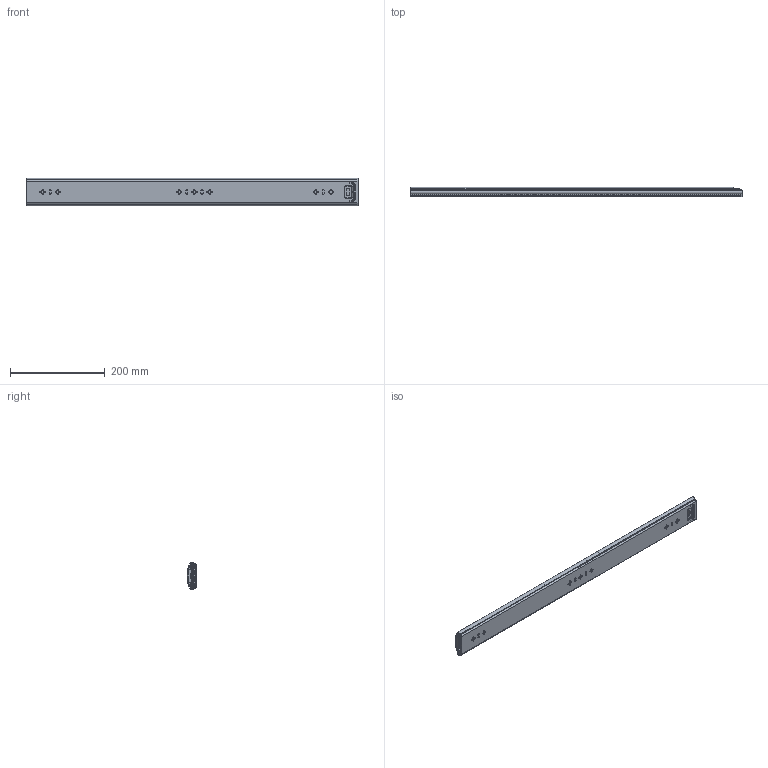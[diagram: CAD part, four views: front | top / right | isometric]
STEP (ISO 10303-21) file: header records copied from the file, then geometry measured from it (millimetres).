
FILE_DESCRIPTION((''),'2;1');
FILE_NAME('1057-02-28_ASM','2023-12-23T',('jishu015'),(''),'PRO/ENGINEER BY PARAMETRIC TECHNOLOGY CORPORATION, 2010280','PRO/ENGINEER BY PARAMETRIC TECHNOLOGY CORPORATION, 2010280','');
FILE_SCHEMA(('CONFIG_CONTROL_DESIGN'));
Products named in the file (14): KP-57-01WEIKE-18______; 1057WEIJIAO______; 1057DAZHUJIA-14GE______; 1057-5-6GANZHU______; 1057DAZHUJIA-14GE_______ASM; KP-57-01ZHONGGUI-18______; 57-ZHONGGUIDINWEIJIAN______; KP-57-01ZHONGGUI-18_______ASM; 1057XIAOZHUJIA______; 1057XIAOZHUJIA-14GE_______ASM; KP-57-01NEIGUI-18______; 45TIEBACHA______; KP-57-01NEIGUI-18_______ASM; 1057-02-28_ASM
Assembly tree (112 placements, depth 3):
  1057-02-28_ASM
    KP-57-01WEIKE-18______
    1057WEIJIAO______
    1057DAZHUJIA-14GE_______ASM
      1057DAZHUJIA-14GE______
      1057-5-6GANZHU______  x48
    KP-57-01ZHONGGUI-18_______ASM
      KP-57-01ZHONGGUI-18______
      57-ZHONGGUIDINWEIJIAN______
    1057XIAOZHUJIA-14GE_______ASM
      1057XIAOZHUJIA______
      1057-5-6GANZHU______  x52
    KP-57-01NEIGUI-18_______ASM
      KP-57-01NEIGUI-18______
      45TIEBACHA______
Bounding box: 700 x 19 x 57.67 mm (x, y, z)
Volume: 304594.1 mm3; surface area: 354745.9 mm2
Topology: 108 solids, 110 shells, 2799 faces, 7838 edges, 4848 vertices
Faces by surface type: plane 1313, cylinder 1142, sphere 208, cone 74, bspline 56, torus 6
Entity records: 87569 total; most frequent: CARTESIAN_POINT 17817, DIRECTION 14816, ORIENTED_EDGE 14460, EDGE_CURVE 7232, AXIS2_PLACEMENT_3D 5075, VECTOR 4666, LINE 4666, VERTEX_POINT 4650
